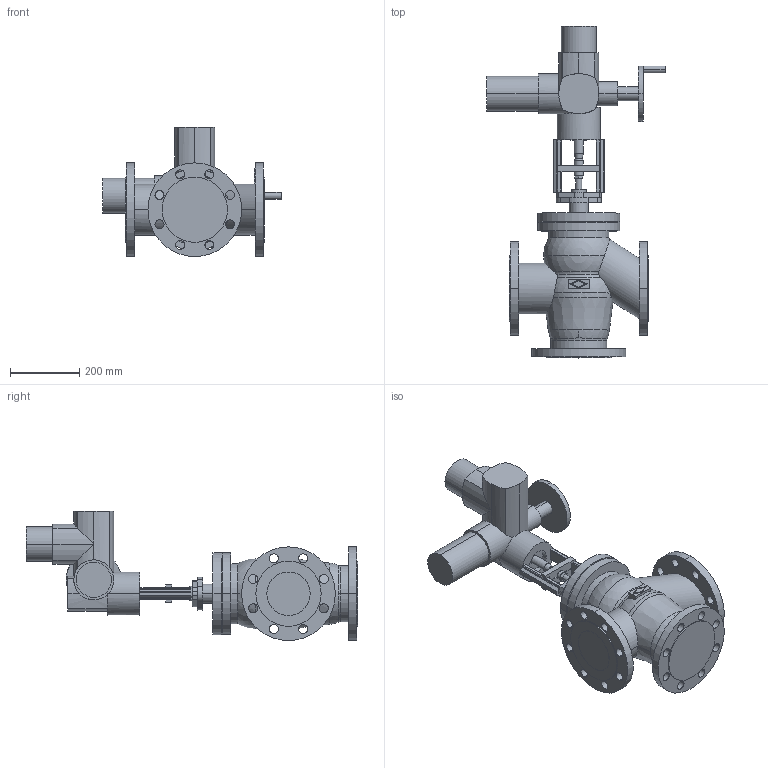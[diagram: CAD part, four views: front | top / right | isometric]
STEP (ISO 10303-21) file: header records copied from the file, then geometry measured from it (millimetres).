
FILE_DESCRIPTION(('OneSpaceDesigner STEP Export'),'2;1');
FILE_NAME('c000003183.stp','2007-01-24T11:14:31',(''),(''),'OneSpace Designer STEP processor for AP214 (Solid Model)','OneSpace Designer 14.00B 27-May-2006 (C) CoCreate Software GmbH','');
FILE_SCHEMA(('AUTOMOTIVE_DESIGN { 1 0 10303 214 1 1 1 1 }'));
Length unit declared in the file: millimetre
Products named in the file (2): 1; 2
Bounding box: 514 x 956 x 372 mm (x, y, z)
Volume: 27432936.2 mm3; surface area: 1249577.2 mm2
Topology: 2 solids, 2 shells, 318 faces, 827 edges, 523 vertices
Faces by surface type: cylinder 162, plane 134, torus 8, sphere 8, cone 6
Entity records: 9290 total; most frequent: CARTESIAN_POINT 2081, ORIENTED_EDGE 1638, DIRECTION 1322, EDGE_CURVE 819, VERTEX_POINT 523, AXIS2_PLACEMENT_3D 461, VECTOR 400, LINE 400
